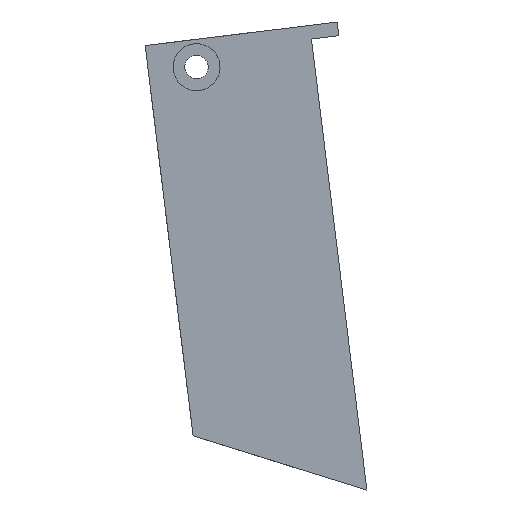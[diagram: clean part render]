
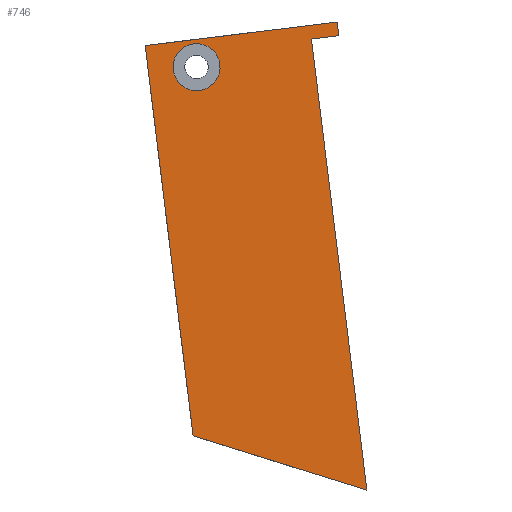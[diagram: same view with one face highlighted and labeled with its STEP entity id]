
A CAD part, left-side view. The second image highlights one B-rep face of the part: STEP entity #746.
In plain terms, the highlighted planar face has unit normal (-1, 0, 0).
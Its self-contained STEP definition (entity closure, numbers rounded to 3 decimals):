
#22 = VERTEX_POINT('',#23);
#23 = CARTESIAN_POINT('',(-25.,8.287,-87.507));
#32 = PLANE('',#33);
#33 = AXIS2_PLACEMENT_3D('',#34,#35,#36);
#34 = CARTESIAN_POINT('',(-25.,0.,-155.));
#35 = DIRECTION('',(-0.,-0.993,0.122));
#36 = DIRECTION('',(-1.,0.,0.));
#44 = PLANE('',#45);
#45 = AXIS2_PLACEMENT_3D('',#46,#47,#48);
#46 = CARTESIAN_POINT('',(0.,15.752,
    -88.423));
#47 = DIRECTION('',(-0.,-0.122,-0.993));
#48 = DIRECTION('',(1.,0.,0.));
#56 = EDGE_CURVE('',#22,#57,#59,.T.);
#57 = VERTEX_POINT('',#58);
#58 = CARTESIAN_POINT('',(-25.,8.531,-85.522));
#59 = SURFACE_CURVE('',#60,(#64,#71),.PCURVE_S1.);
#60 = LINE('',#61,#62);
#61 = CARTESIAN_POINT('',(-25.,0.,-155.));
#62 = VECTOR('',#63,1.);
#63 = DIRECTION('',(-0.,0.122,0.993));
#64 = PCURVE('',#32,#65);
#65 = DEFINITIONAL_REPRESENTATION('',(#66),#70);
#66 = LINE('',#67,#68);
#67 = CARTESIAN_POINT('',(-0.,-0.));
#68 = VECTOR('',#69,1.);
#69 = DIRECTION('',(-0.,-1.));
#70 = ( GEOMETRIC_REPRESENTATION_CONTEXT(2) 
PARAMETRIC_REPRESENTATION_CONTEXT() REPRESENTATION_CONTEXT('2D SPACE',''
  ) );
#71 = PCURVE('',#72,#77);
#72 = PLANE('',#73);
#73 = AXIS2_PLACEMENT_3D('',#74,#75,#76);
#74 = CARTESIAN_POINT('',(-25.,27.791,-158.412));
#75 = DIRECTION('',(-1.,-0.,-0.));
#76 = DIRECTION('',(0.,0.993,-0.122));
#77 = DEFINITIONAL_REPRESENTATION('',(#78),#82);
#78 = LINE('',#79,#80);
#79 = CARTESIAN_POINT('',(-28.,0.));
#80 = VECTOR('',#81,1.);
#81 = DIRECTION('',(0.,-1.));
#82 = ( GEOMETRIC_REPRESENTATION_CONTEXT(2) 
PARAMETRIC_REPRESENTATION_CONTEXT() REPRESENTATION_CONTEXT('2D SPACE',''
  ) );
#100 = PLANE('',#101);
#101 = AXIS2_PLACEMENT_3D('',#102,#103,#104);
#102 = CARTESIAN_POINT('',(0.,23.863,-87.404));
#103 = DIRECTION('',(-0.,-0.122,-0.993));
#104 = DIRECTION('',(1.,0.,0.));
#141 = EDGE_CURVE('',#142,#22,#144,.T.);
#142 = VERTEX_POINT('',#143);
#143 = CARTESIAN_POINT('',(-25.,12.257,-87.994));
#144 = SURFACE_CURVE('',#145,(#149,#156),.PCURVE_S1.);
#145 = LINE('',#146,#147);
#146 = CARTESIAN_POINT('',(-25.,12.257,-87.994));
#147 = VECTOR('',#148,1.);
#148 = DIRECTION('',(-0.,-0.993,0.122));
#149 = PCURVE('',#44,#150);
#150 = DEFINITIONAL_REPRESENTATION('',(#151),#155);
#151 = LINE('',#152,#153);
#152 = CARTESIAN_POINT('',(-25.,3.521));
#153 = VECTOR('',#154,1.);
#154 = DIRECTION('',(-0.,1.));
#155 = ( GEOMETRIC_REPRESENTATION_CONTEXT(2) 
PARAMETRIC_REPRESENTATION_CONTEXT() REPRESENTATION_CONTEXT('2D SPACE',''
  ) );
#156 = PCURVE('',#72,#157);
#157 = DEFINITIONAL_REPRESENTATION('',(#158),#162);
#158 = LINE('',#159,#160);
#159 = CARTESIAN_POINT('',(-24.,-68.));
#160 = VECTOR('',#161,1.);
#161 = DIRECTION('',(-1.,0.));
#162 = ( GEOMETRIC_REPRESENTATION_CONTEXT(2) 
PARAMETRIC_REPRESENTATION_CONTEXT() REPRESENTATION_CONTEXT('2D SPACE',''
  ) );
#426 = PLANE('',#427);
#427 = AXIS2_PLACEMENT_3D('',#428,#429,#430);
#428 = CARTESIAN_POINT('',(-21.,3.848,-156.48));
#429 = DIRECTION('',(0.,0.993,-0.122));
#430 = DIRECTION('',(1.,0.,0.));
#585 = VERTEX_POINT('',#586);
#586 = CARTESIAN_POINT('',(-25.,36.322,-88.934));
#600 = PLANE('',#601);
#601 = AXIS2_PLACEMENT_3D('',#602,#603,#604);
#602 = CARTESIAN_POINT('',(25.,27.791,-158.412));
#603 = DIRECTION('',(0.,0.993,-0.122));
#604 = DIRECTION('',(1.,0.,0.));
#612 = EDGE_CURVE('',#585,#57,#613,.T.);
#613 = SURFACE_CURVE('',#614,(#618,#625),.PCURVE_S1.);
#614 = LINE('',#615,#616);
#615 = CARTESIAN_POINT('',(-25.,36.322,-88.934));
#616 = VECTOR('',#617,1.);
#617 = DIRECTION('',(-0.,-0.993,0.122));
#618 = PCURVE('',#100,#619);
#619 = DEFINITIONAL_REPRESENTATION('',(#620),#624);
#620 = LINE('',#621,#622);
#621 = CARTESIAN_POINT('',(-25.,-12.553));
#622 = VECTOR('',#623,1.);
#623 = DIRECTION('',(-0.,1.));
#624 = ( GEOMETRIC_REPRESENTATION_CONTEXT(2) 
PARAMETRIC_REPRESENTATION_CONTEXT() REPRESENTATION_CONTEXT('2D SPACE',''
  ) );
#625 = PCURVE('',#72,#626);
#626 = DEFINITIONAL_REPRESENTATION('',(#627),#631);
#627 = LINE('',#628,#629);
#628 = CARTESIAN_POINT('',(0.,-70.));
#629 = VECTOR('',#630,1.);
#630 = DIRECTION('',(-1.,0.));
#631 = ( GEOMETRIC_REPRESENTATION_CONTEXT(2) 
PARAMETRIC_REPRESENTATION_CONTEXT() REPRESENTATION_CONTEXT('2D SPACE',''
  ) );
#746 = ADVANCED_FACE('',(#747,#824),#72,.T.);
#747 = FACE_BOUND('',#748,.F.);
#748 = EDGE_LOOP('',(#749,#779,#800,#801,#802,#803));
#749 = ORIENTED_EDGE('',*,*,#750,.F.);
#750 = EDGE_CURVE('',#751,#753,#755,.T.);
#751 = VERTEX_POINT('',#752);
#752 = CARTESIAN_POINT('',(-25.,29.386,-145.423));
#753 = VERTEX_POINT('',#754);
#754 = CARTESIAN_POINT('',(-25.,4.245,-153.248));
#755 = SURFACE_CURVE('',#756,(#760,#767),.PCURVE_S1.);
#756 = LINE('',#757,#758);
#757 = CARTESIAN_POINT('',(-25.,27.864,-145.897));
#758 = VECTOR('',#759,1.);
#759 = DIRECTION('',(-0.,-0.955,-0.297));
#760 = PCURVE('',#72,#761);
#761 = DEFINITIONAL_REPRESENTATION('',(#762),#766);
#762 = LINE('',#763,#764);
#763 = CARTESIAN_POINT('',(-1.453,-12.431));
#764 = VECTOR('',#765,1.);
#765 = DIRECTION('',(-0.911,0.411));
#766 = ( GEOMETRIC_REPRESENTATION_CONTEXT(2) 
PARAMETRIC_REPRESENTATION_CONTEXT() REPRESENTATION_CONTEXT('2D SPACE',''
  ) );
#767 = PCURVE('',#768,#773);
#768 = PLANE('',#769);
#769 = AXIS2_PLACEMENT_3D('',#770,#771,#772);
#770 = CARTESIAN_POINT('',(-27.,31.481,-144.771));
#771 = DIRECTION('',(-0.,-0.297,0.955));
#772 = DIRECTION('',(0.,0.955,0.297));
#773 = DEFINITIONAL_REPRESENTATION('',(#774),#778);
#774 = LINE('',#775,#776);
#775 = CARTESIAN_POINT('',(-3.789,-2.));
#776 = VECTOR('',#777,1.);
#777 = DIRECTION('',(-1.,0.));
#778 = ( GEOMETRIC_REPRESENTATION_CONTEXT(2) 
PARAMETRIC_REPRESENTATION_CONTEXT() REPRESENTATION_CONTEXT('2D SPACE',''
  ) );
#779 = ORIENTED_EDGE('',*,*,#780,.T.);
#780 = EDGE_CURVE('',#751,#585,#781,.T.);
#781 = SURFACE_CURVE('',#782,(#786,#793),.PCURVE_S1.);
#782 = LINE('',#783,#784);
#783 = CARTESIAN_POINT('',(-25.,27.791,-158.412));
#784 = VECTOR('',#785,1.);
#785 = DIRECTION('',(-0.,0.122,0.993));
#786 = PCURVE('',#72,#787);
#787 = DEFINITIONAL_REPRESENTATION('',(#788),#792);
#788 = LINE('',#789,#790);
#789 = CARTESIAN_POINT('',(-0.,-0.));
#790 = VECTOR('',#791,1.);
#791 = DIRECTION('',(0.,-1.));
#792 = ( GEOMETRIC_REPRESENTATION_CONTEXT(2) 
PARAMETRIC_REPRESENTATION_CONTEXT() REPRESENTATION_CONTEXT('2D SPACE',''
  ) );
#793 = PCURVE('',#600,#794);
#794 = DEFINITIONAL_REPRESENTATION('',(#795),#799);
#795 = LINE('',#796,#797);
#796 = CARTESIAN_POINT('',(-50.,0.));
#797 = VECTOR('',#798,1.);
#798 = DIRECTION('',(-0.,-1.));
#799 = ( GEOMETRIC_REPRESENTATION_CONTEXT(2) 
PARAMETRIC_REPRESENTATION_CONTEXT() REPRESENTATION_CONTEXT('2D SPACE',''
  ) );
#800 = ORIENTED_EDGE('',*,*,#612,.T.);
#801 = ORIENTED_EDGE('',*,*,#56,.F.);
#802 = ORIENTED_EDGE('',*,*,#141,.F.);
#803 = ORIENTED_EDGE('',*,*,#804,.F.);
#804 = EDGE_CURVE('',#753,#142,#805,.T.);
#805 = SURFACE_CURVE('',#806,(#810,#817),.PCURVE_S1.);
#806 = LINE('',#807,#808);
#807 = CARTESIAN_POINT('',(-25.,3.848,-156.48));
#808 = VECTOR('',#809,1.);
#809 = DIRECTION('',(-0.,0.122,0.993));
#810 = PCURVE('',#72,#811);
#811 = DEFINITIONAL_REPRESENTATION('',(#812),#816);
#812 = LINE('',#813,#814);
#813 = CARTESIAN_POINT('',(-24.,1.));
#814 = VECTOR('',#815,1.);
#815 = DIRECTION('',(0.,-1.));
#816 = ( GEOMETRIC_REPRESENTATION_CONTEXT(2) 
PARAMETRIC_REPRESENTATION_CONTEXT() REPRESENTATION_CONTEXT('2D SPACE',''
  ) );
#817 = PCURVE('',#426,#818);
#818 = DEFINITIONAL_REPRESENTATION('',(#819),#823);
#819 = LINE('',#820,#821);
#820 = CARTESIAN_POINT('',(-4.,0.));
#821 = VECTOR('',#822,1.);
#822 = DIRECTION('',(-0.,-1.));
#823 = ( GEOMETRIC_REPRESENTATION_CONTEXT(2) 
PARAMETRIC_REPRESENTATION_CONTEXT() REPRESENTATION_CONTEXT('2D SPACE',''
  ) );
#824 = FACE_BOUND('',#825,.F.);
#825 = EDGE_LOOP('',(#826));
#826 = ORIENTED_EDGE('',*,*,#827,.F.);
#827 = EDGE_CURVE('',#828,#828,#830,.T.);
#828 = VERTEX_POINT('',#829);
#829 = CARTESIAN_POINT('',(-25.,32.262,-92.466));
#830 = SURFACE_CURVE('',#831,(#836,#847),.PCURVE_S1.);
#831 = CIRCLE('',#832,3.4);
#832 = AXIS2_PLACEMENT_3D('',#833,#834,#835);
#833 = CARTESIAN_POINT('',(-25.,28.887,-92.051));
#834 = DIRECTION('',(1.,0.,0.));
#835 = DIRECTION('',(0.,0.993,-0.122));
#836 = PCURVE('',#72,#837);
#837 = DEFINITIONAL_REPRESENTATION('',(#838),#846);
#838 = ( BOUNDED_CURVE() B_SPLINE_CURVE(2,(#839,#840,#841,#842,#843,#844
,#845),.UNSPECIFIED.,.T.,.F.) B_SPLINE_CURVE_WITH_KNOTS((1,2,2,2,2,1),(
    -2.094,0.,2.094,4.189,6.283,
8.378),.UNSPECIFIED.) CURVE() GEOMETRIC_REPRESENTATION_ITEM() 
RATIONAL_B_SPLINE_CURVE((1.,0.5,1.,0.5,1.,0.5,1.)) REPRESENTATION_ITEM(
  '') );
#839 = CARTESIAN_POINT('',(-3.6,-66.));
#840 = CARTESIAN_POINT('',(-3.6,-71.889));
#841 = CARTESIAN_POINT('',(-8.7,-68.944));
#842 = CARTESIAN_POINT('',(-13.8,-66.));
#843 = CARTESIAN_POINT('',(-8.7,-63.056));
#844 = CARTESIAN_POINT('',(-3.6,-60.111));
#845 = CARTESIAN_POINT('',(-3.6,-66.));
#846 = ( GEOMETRIC_REPRESENTATION_CONTEXT(2) 
PARAMETRIC_REPRESENTATION_CONTEXT() REPRESENTATION_CONTEXT('2D SPACE',''
  ) );
#847 = PCURVE('',#848,#853);
#848 = CYLINDRICAL_SURFACE('',#849,3.4);
#849 = AXIS2_PLACEMENT_3D('',#850,#851,#852);
#850 = CARTESIAN_POINT('',(-40.,28.887,-92.051));
#851 = DIRECTION('',(-1.,-0.,-0.));
#852 = DIRECTION('',(0.,0.993,-0.122));
#853 = DEFINITIONAL_REPRESENTATION('',(#854),#858);
#854 = LINE('',#855,#856);
#855 = CARTESIAN_POINT('',(6.283,-15.));
#856 = VECTOR('',#857,1.);
#857 = DIRECTION('',(-1.,0.));
#858 = ( GEOMETRIC_REPRESENTATION_CONTEXT(2) 
PARAMETRIC_REPRESENTATION_CONTEXT() REPRESENTATION_CONTEXT('2D SPACE',''
  ) );
